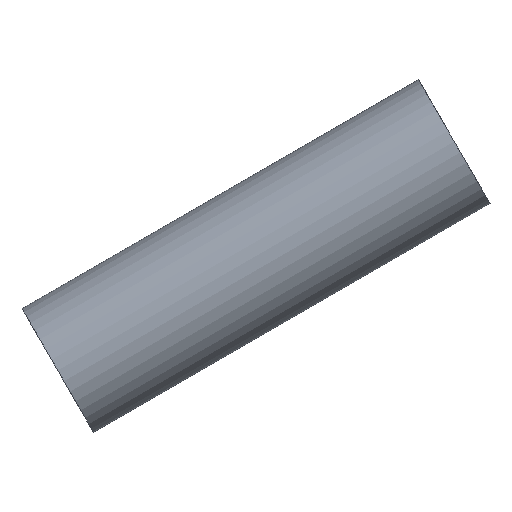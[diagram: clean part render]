
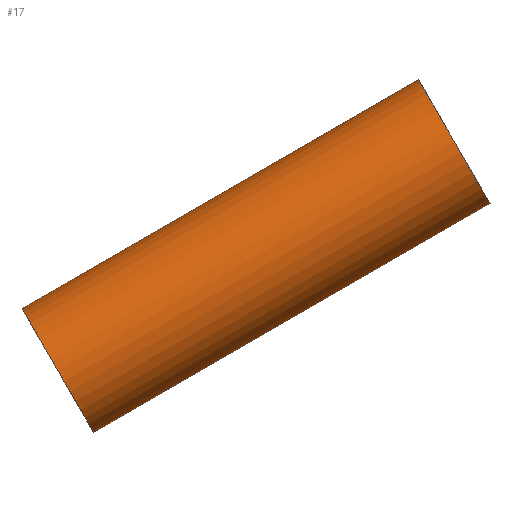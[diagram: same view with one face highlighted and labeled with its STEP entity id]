
A CAD part, left-side view. The second image highlights one B-rep face of the part: STEP entity #17.
In plain terms, the highlighted cylindrical face has radius 2.5 mm (diameter 5 mm), a full revolution.
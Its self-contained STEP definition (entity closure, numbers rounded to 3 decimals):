
#17 = ADVANCED_FACE('',(#18),#31,.T.);
#18 = FACE_BOUND('',#19,.T.);
#19 = EDGE_LOOP('',(#20,#54,#77,#104));
#20 = ORIENTED_EDGE('',*,*,#21,.F.);
#21 = EDGE_CURVE('',#22,#22,#24,.T.);
#22 = VERTEX_POINT('',#23);
#23 = CARTESIAN_POINT('',(584.,-27.329,18.665));
#24 = SURFACE_CURVE('',#25,(#30,#42),.PCURVE_S1.);
#25 = CIRCLE('',#26,2.5);
#26 = AXIS2_PLACEMENT_3D('',#27,#28,#29);
#27 = CARTESIAN_POINT('',(584.,-28.579,16.5));
#28 = DIRECTION('',(0.,0.866,-0.5));
#29 = DIRECTION('',(0.,0.5,0.866));
#30 = PCURVE('',#31,#36);
#31 = CYLINDRICAL_SURFACE('',#32,2.5);
#32 = AXIS2_PLACEMENT_3D('',#33,#34,#35);
#33 = CARTESIAN_POINT('',(584.,-42.435,24.5));
#34 = DIRECTION('',(0.,0.866,-0.5));
#35 = DIRECTION('',(0.,0.5,0.866));
#36 = DEFINITIONAL_REPRESENTATION('',(#37),#41);
#37 = LINE('',#38,#39);
#38 = CARTESIAN_POINT('',(0.,16.));
#39 = VECTOR('',#40,1.);
#40 = DIRECTION('',(1.,0.));
#41 = ( GEOMETRIC_REPRESENTATION_CONTEXT(2) 
PARAMETRIC_REPRESENTATION_CONTEXT() REPRESENTATION_CONTEXT('2D SPACE',''
  ) );
#42 = PCURVE('',#43,#48);
#43 = PLANE('',#44);
#44 = AXIS2_PLACEMENT_3D('',#45,#46,#47);
#45 = CARTESIAN_POINT('',(584.,-28.579,16.5));
#46 = DIRECTION('',(0.,0.866,-0.5));
#47 = DIRECTION('',(0.,0.5,0.866));
#48 = DEFINITIONAL_REPRESENTATION('',(#49),#53);
#49 = CIRCLE('',#50,2.5);
#50 = AXIS2_PLACEMENT_2D('',#51,#52);
#51 = CARTESIAN_POINT('',(0.,0.));
#52 = DIRECTION('',(1.,0.));
#53 = ( GEOMETRIC_REPRESENTATION_CONTEXT(2) 
PARAMETRIC_REPRESENTATION_CONTEXT() REPRESENTATION_CONTEXT('2D SPACE',''
  ) );
#54 = ORIENTED_EDGE('',*,*,#55,.F.);
#55 = EDGE_CURVE('',#56,#22,#58,.T.);
#56 = VERTEX_POINT('',#57);
#57 = CARTESIAN_POINT('',(584.,-41.185,26.665));
#58 = SEAM_CURVE('',#59,(#63,#70),.PCURVE_S1.);
#59 = LINE('',#60,#61);
#60 = CARTESIAN_POINT('',(584.,-41.185,26.665));
#61 = VECTOR('',#62,1.);
#62 = DIRECTION('',(0.,0.866,-0.5));
#63 = PCURVE('',#31,#64);
#64 = DEFINITIONAL_REPRESENTATION('',(#65),#69);
#65 = LINE('',#66,#67);
#66 = CARTESIAN_POINT('',(6.283,-0.));
#67 = VECTOR('',#68,1.);
#68 = DIRECTION('',(0.,1.));
#69 = ( GEOMETRIC_REPRESENTATION_CONTEXT(2) 
PARAMETRIC_REPRESENTATION_CONTEXT() REPRESENTATION_CONTEXT('2D SPACE',''
  ) );
#70 = PCURVE('',#31,#71);
#71 = DEFINITIONAL_REPRESENTATION('',(#72),#76);
#72 = LINE('',#73,#74);
#73 = CARTESIAN_POINT('',(0.,-0.));
#74 = VECTOR('',#75,1.);
#75 = DIRECTION('',(0.,1.));
#76 = ( GEOMETRIC_REPRESENTATION_CONTEXT(2) 
PARAMETRIC_REPRESENTATION_CONTEXT() REPRESENTATION_CONTEXT('2D SPACE',''
  ) );
#77 = ORIENTED_EDGE('',*,*,#78,.T.);
#78 = EDGE_CURVE('',#56,#56,#79,.T.);
#79 = SURFACE_CURVE('',#80,(#85,#92),.PCURVE_S1.);
#80 = CIRCLE('',#81,2.5);
#81 = AXIS2_PLACEMENT_3D('',#82,#83,#84);
#82 = CARTESIAN_POINT('',(584.,-42.435,24.5));
#83 = DIRECTION('',(0.,0.866,-0.5));
#84 = DIRECTION('',(0.,0.5,0.866));
#85 = PCURVE('',#31,#86);
#86 = DEFINITIONAL_REPRESENTATION('',(#87),#91);
#87 = LINE('',#88,#89);
#88 = CARTESIAN_POINT('',(0.,0.));
#89 = VECTOR('',#90,1.);
#90 = DIRECTION('',(1.,0.));
#91 = ( GEOMETRIC_REPRESENTATION_CONTEXT(2) 
PARAMETRIC_REPRESENTATION_CONTEXT() REPRESENTATION_CONTEXT('2D SPACE',''
  ) );
#92 = PCURVE('',#93,#98);
#93 = PLANE('',#94);
#94 = AXIS2_PLACEMENT_3D('',#95,#96,#97);
#95 = CARTESIAN_POINT('',(584.,-42.435,24.5));
#96 = DIRECTION('',(0.,0.866,-0.5));
#97 = DIRECTION('',(0.,0.5,0.866));
#98 = DEFINITIONAL_REPRESENTATION('',(#99),#103);
#99 = CIRCLE('',#100,2.5);
#100 = AXIS2_PLACEMENT_2D('',#101,#102);
#101 = CARTESIAN_POINT('',(0.,0.));
#102 = DIRECTION('',(1.,0.));
#103 = ( GEOMETRIC_REPRESENTATION_CONTEXT(2) 
PARAMETRIC_REPRESENTATION_CONTEXT() REPRESENTATION_CONTEXT('2D SPACE',''
  ) );
#104 = ORIENTED_EDGE('',*,*,#55,.T.);
